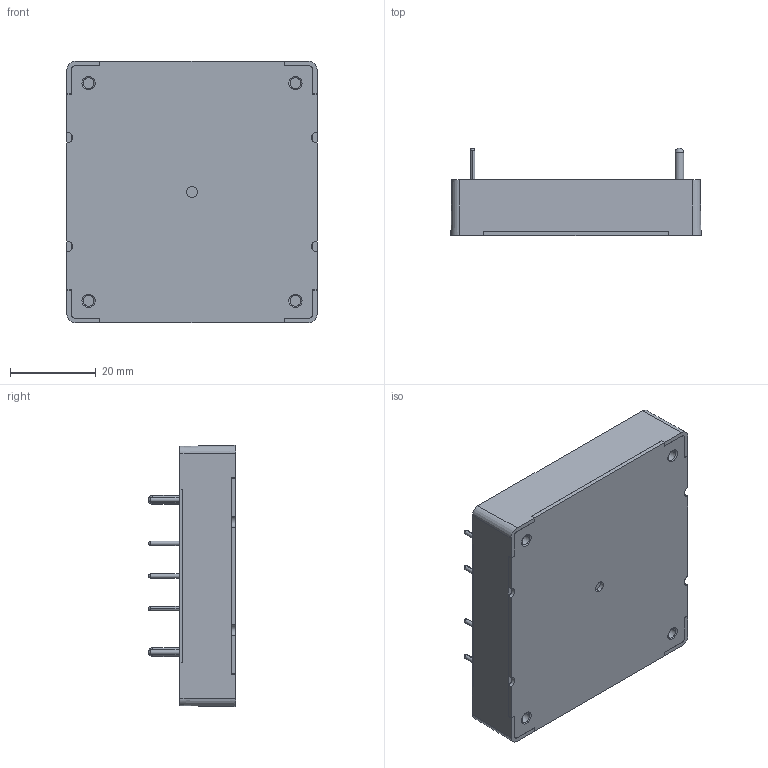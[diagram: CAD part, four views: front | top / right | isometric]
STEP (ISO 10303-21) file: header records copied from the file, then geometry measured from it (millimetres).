
FILE_DESCRIPTION (( 'STEP AP203' ), '1' );
FILE_NAME ('THREADED.STEP', '2024-10-23T09:39:23', ( '' ), ( '' ), 'SwSTEP 2.0', 'SolidWorks 2021', '' );
FILE_SCHEMA (( 'CONFIG_CONTROL_DESIGN' ));
Length unit declared in the file: millimetre
Products named in the file (1): THREADED
Bounding box: 58.4 x 20.38 x 61 mm (x, y, z)
Volume: 42547 mm3; surface area: 18142.4 mm2
Topology: 1 solids, 1 shells, 399 faces, 1201 edges, 766 vertices
Faces by surface type: plane 194, cylinder 166, cone 30, sphere 9
Entity records: 14279 total; most frequent: CARTESIAN_POINT 3598, ORIENTED_EDGE 2348, DIRECTION 2110, EDGE_CURVE 1174, AXIS2_PLACEMENT_3D 800, VERTEX_POINT 748, VECTOR 510, LINE 510
